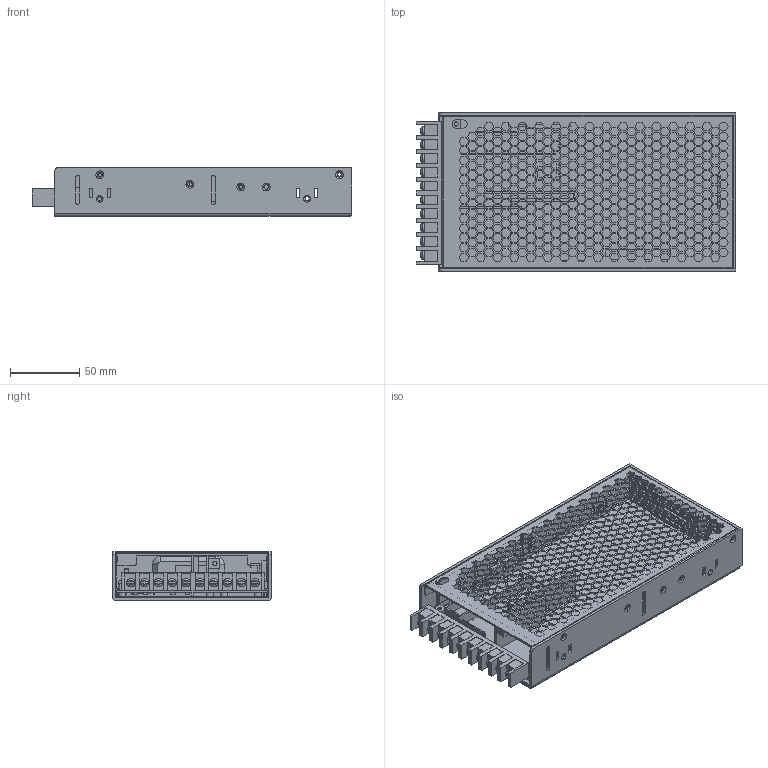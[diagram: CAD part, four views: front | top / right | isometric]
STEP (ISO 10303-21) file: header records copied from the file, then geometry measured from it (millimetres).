
FILE_DESCRIPTION(('OneSpaceDesigner STEP Export'),'2;1');
FILE_NAME('HDP-190.stp','2013-03-18T17:43:12',(''),(''),'OneSpace Designer STEP processor for AP214 (Solid Model)','OneSpace Designer 13.20 11-May-2005 (C) CoCreate Software GmbH','');
FILE_SCHEMA(('AUTOMOTIVE_DESIGN { 1 0 10303 214 1 1 1 1 }'));
Length unit declared in the file: millimetre
Products named in the file (25): FAN-ALL; pcb; ©³®y; M3-7L.1.2; tn.1.1.1; VR.1.1; a1.1; SM; cu1; cu2; cu3; p1; pin.1.2; hs1; mylr; p2; uu.3; pcb2; ww; ©T©w¤ù1.1; ©T©w¤ù1.1.1; ©³cu1; ©³cu2; HDP-190
Assembly tree (29 placements, depth 4):
  HDP-190
    ©³cu2
    ©³cu1
    ©T©w¤ù1.1.1
    ©T©w¤ù1.1
    ww
    pcb2
    uu.3
    p2
    mylr
    hs1
      pin.1.2
      p1
    cu3
    cu2
    cu1
    SM
    a1.1
      VR.1.1  x2
      tn.1.1.1
      ©³®y
        M3-7L.1.2  x5
        ©³®y
      pcb
      FAN-ALL
Bounding box: 231.5 x 115 x 35 mm (x, y, z)
Volume: 175165.1 mm3; surface area: 250199.6 mm2
Topology: 25 solids, 25 shells, 3895 faces, 11197 edges, 7396 vertices
Faces by surface type: plane 3511, cylinder 260, torus 72, cone 52
Entity records: 127387 total; most frequent: CARTESIAN_POINT 25389, ORIENTED_EDGE 22208, DIRECTION 18384, EDGE_CURVE 11104, VECTOR 10206, LINE 10206, VERTEX_POINT 7334, EDGE_LOOP 4882
